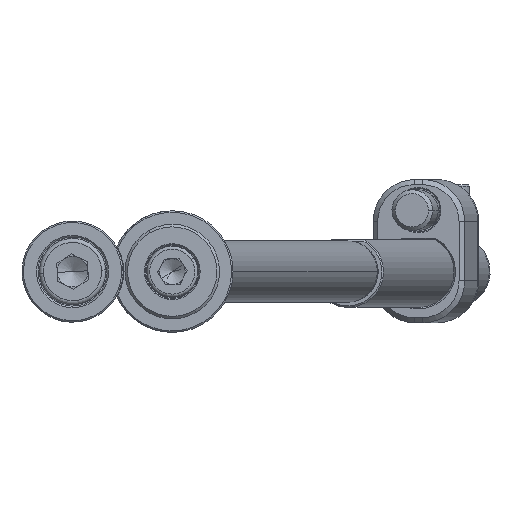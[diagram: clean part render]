
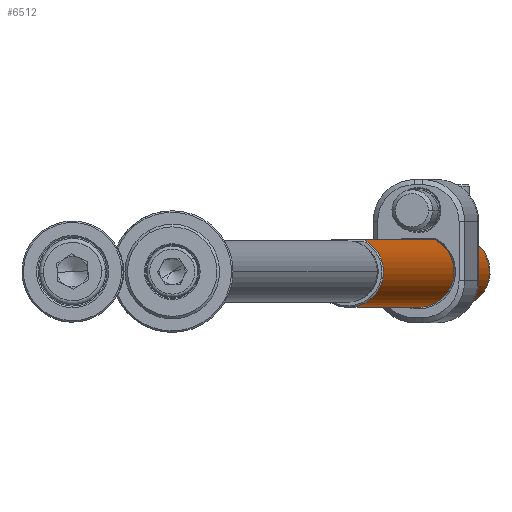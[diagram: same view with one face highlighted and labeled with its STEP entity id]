
A CAD part, front view. The second image highlights one B-rep face of the part: STEP entity #6512.
In plain terms, the highlighted cylindrical face has radius 7 mm (diameter 14 mm), a partial arc.
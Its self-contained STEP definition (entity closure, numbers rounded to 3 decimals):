
#224 = ORIENTED_EDGE ( 'NONE', *, *, #4245, .F. ) ;
#364 = VECTOR ( 'NONE', #6317, 1000. ) ;
#430 = CARTESIAN_POINT ( 'NONE',  ( 6.2, -3.25, 199.7 ) ) ;
#695 = VERTEX_POINT ( 'NONE', #5266 ) ;
#923 = B_SPLINE_CURVE_WITH_KNOTS ( 'NONE', 3,
 ( #4796, #9197, #12563, #10381 ),
 .UNSPECIFIED., .F., .F.,
 ( 4, 4 ),
 ( 0., 0. ),
 .UNSPECIFIED. ) ;
#1263 = VECTOR ( 'NONE', #13042, 1000. ) ;
#1373 = CARTESIAN_POINT ( 'NONE',  ( 6.2, -3.25, 0.3 ) ) ;
#1422 = CARTESIAN_POINT ( 'NONE',  ( 6.1, -3.434, 12.052 ) ) ;
#1460 = AXIS2_PLACEMENT_3D ( 'NONE', #8350, #4928, #5228 ) ;
#1666 = CARTESIAN_POINT ( 'NONE',  ( 6.2, -3.25, 7.5 ) ) ;
#1718 = DIRECTION ( 'NONE',  ( 0., 0., 1. ) ) ;
#1732 = EDGE_CURVE ( 'NONE', #11892, #695, #4840, .T. ) ;
#1744 = VECTOR ( 'NONE', #9395, 1000. ) ;
#1865 = ORIENTED_EDGE ( 'NONE', *, *, #4095, .T. ) ;
#2360 = ORIENTED_EDGE ( 'NONE', *, *, #3592, .T. ) ;
#2614 = CIRCLE ( 'NONE', #7269, 7. ) ;
#3267 = ORIENTED_EDGE ( 'NONE', *, *, #1732, .F. ) ;
#3496 = VERTEX_POINT ( 'NONE', #1373 ) ;
#3592 = EDGE_CURVE ( 'NONE', #5605, #7321, #12140, .T. ) ;
#4095 = EDGE_CURVE ( 'NONE', #7321, #8295, #13676, .T. ) ;
#4151 = CARTESIAN_POINT ( 'NONE',  ( 6.1, -3.434, 12.052 ) ) ;
#4198 = LINE ( 'NONE', #7387, #1263 ) ;
#4245 = EDGE_CURVE ( 'NONE', #7652, #3496, #6086, .T. ) ;
#4491 = DIRECTION ( 'NONE',  ( 0., 0., -1. ) ) ;
#4620 = CARTESIAN_POINT ( 'NONE',  ( 6.2, -3.25, 12.5 ) ) ;
#4775 = CARTESIAN_POINT ( 'NONE',  ( 5.876, -3.804, 11.25 ) ) ;
#4796 = CARTESIAN_POINT ( 'NONE',  ( 6.2, -3.25, 7.5 ) ) ;
#4840 = B_SPLINE_CURVE_WITH_KNOTS ( 'NONE', 3,
 ( #1422, #5868, #10267, #5947, #4775, #13699, #8123, #7086, #4922, #11512, #6029, #9298, #13762, #12683 ),
 .UNSPECIFIED., .F., .F.,
 ( 4, 2, 2, 2, 2, 2, 4 ),
 ( 0., 0.001, 0.001, 0.003, 0.004, 0.004, 0.005 ),
 .UNSPECIFIED. ) ;
#4922 = CARTESIAN_POINT ( 'NONE',  ( 5.78, -3.95, 9.275 ) ) ;
#4928 = DIRECTION ( 'NONE',  ( 0., 0., -1. ) ) ;
#5228 = DIRECTION ( 'NONE',  ( 1., 0., 0. ) ) ;
#5266 = CARTESIAN_POINT ( 'NONE',  ( 6.1, -3.434, 7.948 ) ) ;
#5458 = ORIENTED_EDGE ( 'NONE', *, *, #9106, .T. ) ;
#5605 = VERTEX_POINT ( 'NONE', #430 ) ;
#5608 = CARTESIAN_POINT ( 'NONE',  ( 0., 0., 200. ) ) ;
#5868 = CARTESIAN_POINT ( 'NONE',  ( 6.049, -3.524, 11.901 ) ) ;
#5947 = CARTESIAN_POINT ( 'NONE',  ( 5.915, -3.744, 11.42 ) ) ;
#6015 = CARTESIAN_POINT ( 'NONE',  ( -7., 0., 0.3 ) ) ;
#6029 = CARTESIAN_POINT ( 'NONE',  ( 5.915, -3.744, 8.582 ) ) ;
#6037 = DIRECTION ( 'NONE',  ( 1., 0., 0. ) ) ;
#6041 = EDGE_LOOP ( 'NONE', ( #2360, #1865, #8798, #224, #5458, #3267, #7568, #6045 ) ) ;
#6045 = ORIENTED_EDGE ( 'NONE', *, *, #9150, .F. ) ;
#6086 = LINE ( 'NONE', #7222, #1744 ) ;
#6118 = CARTESIAN_POINT ( 'NONE',  ( 6.2, -3.25, 12.5 ) ) ;
#6268 = CARTESIAN_POINT ( 'NONE',  ( -7., 0., 199.7 ) ) ;
#6317 = DIRECTION ( 'NONE',  ( 0., 0., -1. ) ) ;
#6512 = ADVANCED_FACE ( 'NONE', ( #10156 ), #11016, .T. ) ;
#6549 = CARTESIAN_POINT ( 'NONE',  ( 6.1, -3.434, 12.052 ) ) ;
#7086 = CARTESIAN_POINT ( 'NONE',  ( 5.744, -4., 9.635 ) ) ;
#7096 = CARTESIAN_POINT ( 'NONE',  ( 0., 0., 0.3 ) ) ;
#7222 = CARTESIAN_POINT ( 'NONE',  ( 6.2, -3.25, 200. ) ) ;
#7269 = AXIS2_PLACEMENT_3D ( 'NONE', #7096, #1718, #6037 ) ;
#7321 = VERTEX_POINT ( 'NONE', #6268 ) ;
#7387 = CARTESIAN_POINT ( 'NONE',  ( 6.2, -3.25, 200. ) ) ;
#7568 = ORIENTED_EDGE ( 'NONE', *, *, #9881, .T. ) ;
#7652 = VERTEX_POINT ( 'NONE', #1666 ) ;
#7925 = VERTEX_POINT ( 'NONE', #4620 ) ;
#7932 = DIRECTION ( 'NONE',  ( -1., 0., 0. ) ) ;
#8123 = CARTESIAN_POINT ( 'NONE',  ( 5.745, -4., 10.372 ) ) ;
#8295 = VERTEX_POINT ( 'NONE', #6015 ) ;
#8350 = CARTESIAN_POINT ( 'NONE',  ( 0., 0., 199.7 ) ) ;
#8600 = CARTESIAN_POINT ( 'NONE',  ( 6.164, -3.317, 12.354 ) ) ;
#8798 = ORIENTED_EDGE ( 'NONE', *, *, #9401, .T. ) ;
#9106 = EDGE_CURVE ( 'NONE', #7652, #695, #923, .T. ) ;
#9150 = EDGE_CURVE ( 'NONE', #5605, #7925, #4198, .T. ) ;
#9197 = CARTESIAN_POINT ( 'NONE',  ( 6.164, -3.317, 7.646 ) ) ;
#9298 = CARTESIAN_POINT ( 'NONE',  ( 6.001, -3.604, 8.256 ) ) ;
#9395 = DIRECTION ( 'NONE',  ( 0., 0., -1. ) ) ;
#9401 = EDGE_CURVE ( 'NONE', #8295, #3496, #2614, .T. ) ;
#9569 = CARTESIAN_POINT ( 'NONE',  ( -7., 0., 200. ) ) ;
#9881 = EDGE_CURVE ( 'NONE', #11892, #7925, #10073, .T. ) ;
#10073 = B_SPLINE_CURVE_WITH_KNOTS ( 'NONE', 3,
 ( #4151, #12854, #8600, #6118 ),
 .UNSPECIFIED., .F., .F.,
 ( 4, 4 ),
 ( 0., 0. ),
 .UNSPECIFIED. ) ;
#10156 = FACE_OUTER_BOUND ( 'NONE', #6041, .T. ) ;
#10267 = CARTESIAN_POINT ( 'NONE',  ( 6.002, -3.604, 11.745 ) ) ;
#10381 = CARTESIAN_POINT ( 'NONE',  ( 6.1, -3.434, 7.948 ) ) ;
#11016 = CYLINDRICAL_SURFACE ( 'NONE', #11219, 7. ) ;
#11219 = AXIS2_PLACEMENT_3D ( 'NONE', #5608, #4491, #7932 ) ;
#11512 = CARTESIAN_POINT ( 'NONE',  ( 5.876, -3.805, 8.752 ) ) ;
#11892 = VERTEX_POINT ( 'NONE', #6549 ) ;
#12140 = CIRCLE ( 'NONE', #1460, 7. ) ;
#12563 = CARTESIAN_POINT ( 'NONE',  ( 6.131, -3.379, 7.796 ) ) ;
#12683 = CARTESIAN_POINT ( 'NONE',  ( 6.1, -3.434, 7.948 ) ) ;
#12854 = CARTESIAN_POINT ( 'NONE',  ( 6.131, -3.379, 12.204 ) ) ;
#13042 = DIRECTION ( 'NONE',  ( 0., 0., -1. ) ) ;
#13676 = LINE ( 'NONE', #9569, #364 ) ;
#13699 = CARTESIAN_POINT ( 'NONE',  ( 5.781, -3.95, 10.729 ) ) ;
#13762 = CARTESIAN_POINT ( 'NONE',  ( 6.049, -3.524, 8.099 ) ) ;
